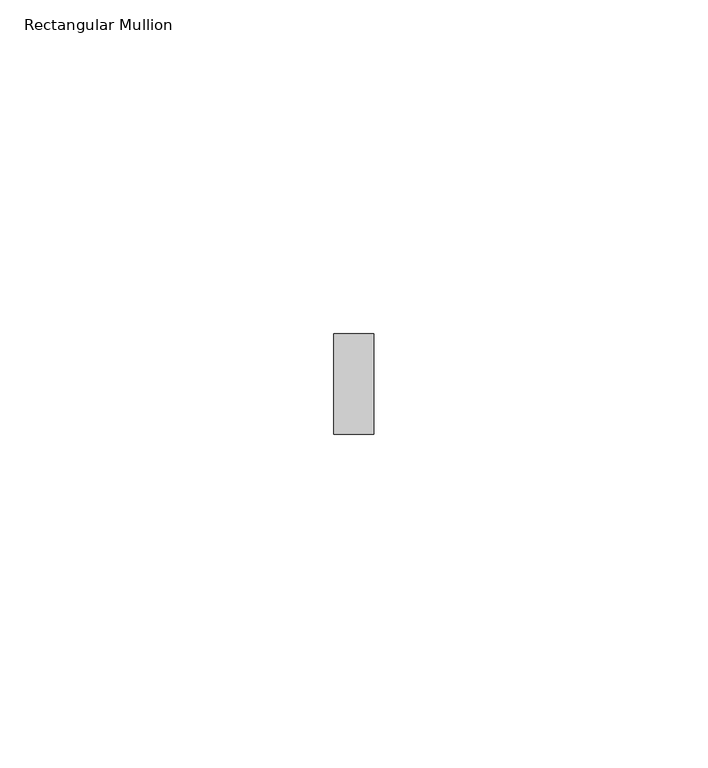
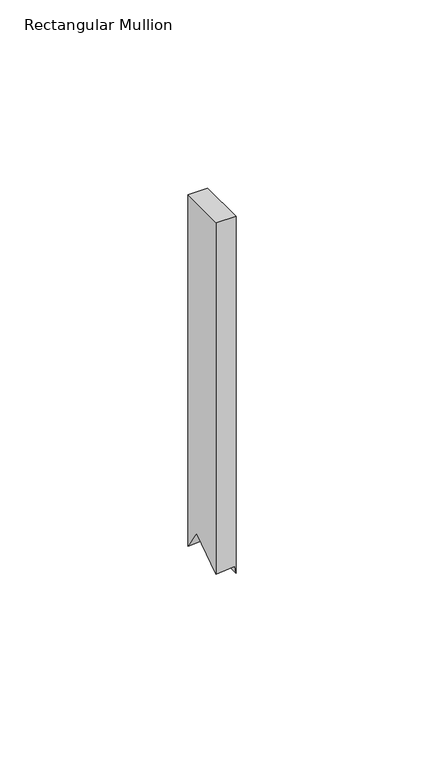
"""IFC4 building model written with IfcOpenShell, lengths in millimetres: member geometry, Rectangular Mullion : ARQ_HERR_15X6mm."""

from ifc_helpers import new_model, si_unit, origin, place, context, project, spatial, faceted_brep, source, transform, mapped, element, save


def rectangular_mullion_c34a0986(model_context):
    return source(origin(), model_context, "Body", "Brep", [
        faceted_brep([(0.0, 7.5, 0.0), (-6.0, 7.5, 0.0), (-6.0, -7.5, 0.0), (0.0, -7.5, 0.0), (0.0, 7.5, -115.7462386), (-0.1769643, 7.5, -113.5528057), (-6.0, 7.5, -114.0226033), (-6.0, 3.0692186, -107.0996483), (-6.0, -7.5, -113.9081165), (-0.1861413, -7.5, -113.4390592), (0.0, -7.5, -115.7462386), (-0.7318904, 3.0692186, -106.6746216)], [[[0, 1, 2, 3]], [[1, 0, 4, 5, 6]], [[2, 1, 6, 7, 8]], [[3, 2, 8, 9, 10]], [[0, 3, 10, 4]], [[4, 10, 9, 11, 5]], [[9, 8, 7, 11]], [[7, 6, 5, 11]]]),
    ])


if __name__ == "__main__":
    model = new_model("IFC4")
    model_context = context("Model", 3, world=origin())
    ifc_project = project(units=[si_unit("LENGTHUNIT", "METRE", prefix="MILLI")], contexts=[model_context])
    site = spatial("IfcSite", under=ifc_project)
    building = spatial("IfcBuilding", under=site)
    placement = place(None, origin())
    rectangular_mullion_shape = rectangular_mullion_c34a0986(model_context)
    element("IfcMember", 1, ObjectType="Rectangular Mullion : ARQ_HERR_15X6mm", at=placement, inside=building, context=model_context, shape_type="MappedRepresentation", body=[
        mapped(rectangular_mullion_shape, transform((0.0, 0.0, 0.0), x_axis=(1.0, 0.0, 0.0), y_axis=(0.0, 1.0, 0.0), z_axis=(0.0, 0.0, 1.0))),
    ])
    save(model, "model.ifc")
